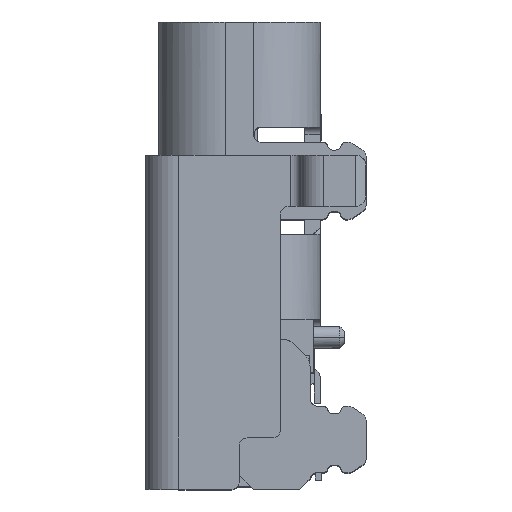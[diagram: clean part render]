
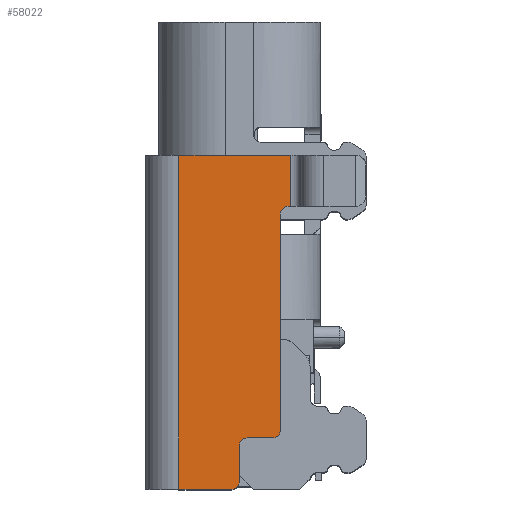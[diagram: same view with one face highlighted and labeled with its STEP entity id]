
A CAD part, top view. The second image highlights one B-rep face of the part: STEP entity #58022.
In plain terms, the highlighted planar face has unit normal (0, 0, 1) as drawn and (1, 0, 0) by its records, which use the part's own axes.
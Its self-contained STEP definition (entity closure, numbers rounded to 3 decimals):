
#38 = CARTESIAN_POINT ( 'NONE',  ( 4.74, -2.48, 5.52 ) ) ;
#578 = LINE ( 'NONE', #53759, #14608 ) ;
#1297 = DIRECTION ( 'NONE',  ( -1., 0., 0. ) ) ;
#1799 = CARTESIAN_POINT ( 'NONE',  ( 4.74, -1.83, 6.37 ) ) ;
#1990 = CARTESIAN_POINT ( 'NONE',  ( 4.74, -2.78, 1. ) ) ;
#2176 = DIRECTION ( 'NONE',  ( 0., -1., 0. ) ) ;
#2193 = ORIENTED_EDGE ( 'NONE', *, *, #56998, .T. ) ;
#2348 = VERTEX_POINT ( 'NONE', #5776 ) ;
#2700 = VERTEX_POINT ( 'NONE', #27356 ) ;
#3662 = DIRECTION ( 'NONE',  ( 0., 0., 1. ) ) ;
#3695 = ORIENTED_EDGE ( 'NONE', *, *, #7460, .T. ) ;
#4602 = VECTOR ( 'NONE', #42315, 1000. ) ;
#5342 = CIRCLE ( 'NONE', #34414, 0.15 ) ;
#5583 = ORIENTED_EDGE ( 'NONE', *, *, #20975, .T. ) ;
#5776 = CARTESIAN_POINT ( 'NONE',  ( 4.74, -2.63, 1.15 ) ) ;
#6571 = AXIS2_PLACEMENT_3D ( 'NONE', #7222, #1297, #49899 ) ;
#7057 = LINE ( 'NONE', #38562, #66312 ) ;
#7222 = CARTESIAN_POINT ( 'NONE',  ( 4.74, -2.78, 1.15 ) ) ;
#7460 = EDGE_CURVE ( 'NONE', #2700, #14980, #55551, .T. ) ;
#8125 = VECTOR ( 'NONE', #24597, 1000. ) ;
#8618 = EDGE_CURVE ( 'NONE', #46556, #62732, #62084, .T. ) ;
#8889 = EDGE_CURVE ( 'NONE', #64501, #63349, #7057, .T. ) ;
#12288 = EDGE_CURVE ( 'NONE', #62732, #64501, #5342, .T. ) ;
#13197 = DIRECTION ( 'NONE',  ( 0., 1., 0. ) ) ;
#13350 = EDGE_LOOP ( 'NONE', ( #26490, #31362, #40719, #3695, #31049, #15634, #5583, #16871, #50275, #18523, #32414, #2193 ) ) ;
#14608 = VECTOR ( 'NONE', #38684, 1000. ) ;
#14869 = DIRECTION ( 'NONE',  ( 0., 0., 1. ) ) ;
#14980 = VERTEX_POINT ( 'NONE', #40031 ) ;
#15634 = ORIENTED_EDGE ( 'NONE', *, *, #30601, .F. ) ;
#16458 = LINE ( 'NONE', #63772, #63963 ) ;
#16871 = ORIENTED_EDGE ( 'NONE', *, *, #8618, .T. ) ;
#18523 = ORIENTED_EDGE ( 'NONE', *, *, #8889, .T. ) ;
#19148 = DIRECTION ( 'NONE',  ( 0., -1., 0. ) ) ;
#19711 = CARTESIAN_POINT ( 'NONE',  ( 4.74, -1.98, 5.67 ) ) ;
#20975 = EDGE_CURVE ( 'NONE', #47099, #46556, #37598, .T. ) ;
#23301 = CARTESIAN_POINT ( 'NONE',  ( 4.74, -2.83, 1. ) ) ;
#23550 = DIRECTION ( 'NONE',  ( 0., 0., -1. ) ) ;
#24597 = DIRECTION ( 'NONE',  ( 0., 0., -1. ) ) ;
#24678 = CARTESIAN_POINT ( 'NONE',  ( 4.74, -0.65, 6.52 ) ) ;
#25100 = DIRECTION ( 'NONE',  ( 1., 0., 0. ) ) ;
#25399 = CARTESIAN_POINT ( 'NONE',  ( 4.74, -1.83, 5.67 ) ) ;
#26490 = ORIENTED_EDGE ( 'NONE', *, *, #68110, .T. ) ;
#26532 = EDGE_CURVE ( 'NONE', #63349, #53963, #42500, .T. ) ;
#27356 = CARTESIAN_POINT ( 'NONE',  ( 4.74, -2.83, 0. ) ) ;
#28569 = CARTESIAN_POINT ( 'NONE',  ( 4.74, -0.65, 0. ) ) ;
#28632 = AXIS2_PLACEMENT_3D ( 'NONE', #29997, #25100, #29320 ) ;
#28779 = CARTESIAN_POINT ( 'NONE',  ( 4.74, -2.63, 6.52 ) ) ;
#29320 = DIRECTION ( 'NONE',  ( 0., 0., 1. ) ) ;
#29997 = CARTESIAN_POINT ( 'NONE',  ( 4.74, -1.68, 6.37 ) ) ;
#30063 = CARTESIAN_POINT ( 'NONE',  ( 4.74, -1.98, 5.52 ) ) ;
#30601 = EDGE_CURVE ( 'NONE', #47099, #39003, #578, .T. ) ;
#31049 = ORIENTED_EDGE ( 'NONE', *, *, #32597, .F. ) ;
#31199 = EDGE_CURVE ( 'NONE', #55064, #2700, #68647, .T. ) ;
#31362 = ORIENTED_EDGE ( 'NONE', *, *, #38856, .T. ) ;
#32414 = ORIENTED_EDGE ( 'NONE', *, *, #26532, .T. ) ;
#32597 = EDGE_CURVE ( 'NONE', #39003, #14980, #16458, .T. ) ;
#33014 = LINE ( 'NONE', #28779, #51422 ) ;
#34414 = AXIS2_PLACEMENT_3D ( 'NONE', #19711, #45299, #3662 ) ;
#35766 = DIRECTION ( 'NONE',  ( 1., 0., 0. ) ) ;
#37598 = CIRCLE ( 'NONE', #28632, 0.15 ) ;
#37758 = CARTESIAN_POINT ( 'NONE',  ( 4.74, -2.83, 6.52 ) ) ;
#37761 = VECTOR ( 'NONE', #19148, 1000. ) ;
#38562 = CARTESIAN_POINT ( 'NONE',  ( 4.74, -0.65, 5.52 ) ) ;
#38684 = DIRECTION ( 'NONE',  ( 0., 1., 0. ) ) ;
#38856 = EDGE_CURVE ( 'NONE', #51677, #55064, #51335, .T. ) ;
#39003 = VERTEX_POINT ( 'NONE', #44938 ) ;
#40031 = CARTESIAN_POINT ( 'NONE',  ( 4.74, -0.65, 0. ) ) ;
#40719 = ORIENTED_EDGE ( 'NONE', *, *, #31199, .T. ) ;
#41388 = CARTESIAN_POINT ( 'NONE',  ( 4.74, -1.83, 6.52 ) ) ;
#41523 = CARTESIAN_POINT ( 'NONE',  ( 4.74, -0.65, 1. ) ) ;
#42023 = DIRECTION ( 'NONE',  ( 0., 0., -1. ) ) ;
#42315 = DIRECTION ( 'NONE',  ( 0., 0., -1. ) ) ;
#42342 = CIRCLE ( 'NONE', #6571, 0.15 ) ;
#42500 = CIRCLE ( 'NONE', #53701, 0.15 ) ;
#44938 = CARTESIAN_POINT ( 'NONE',  ( 4.74, -0.65, 6.52 ) ) ;
#45299 = DIRECTION ( 'NONE',  ( -1., 0., 0. ) ) ;
#46556 = VERTEX_POINT ( 'NONE', #1799 ) ;
#47099 = VERTEX_POINT ( 'NONE', #68118 ) ;
#47302 = CARTESIAN_POINT ( 'NONE',  ( 4.74, -2.48, 5.37 ) ) ;
#49209 = CARTESIAN_POINT ( 'NONE',  ( 4.74, -2.63, 5.37 ) ) ;
#49899 = DIRECTION ( 'NONE',  ( 0., 0., 1. ) ) ;
#50275 = ORIENTED_EDGE ( 'NONE', *, *, #12288, .T. ) ;
#51335 = LINE ( 'NONE', #41523, #37761 ) ;
#51422 = VECTOR ( 'NONE', #23550, 1000. ) ;
#51626 = DIRECTION ( 'NONE',  ( -1., 0., 0. ) ) ;
#51677 = VERTEX_POINT ( 'NONE', #1990 ) ;
#52302 = FACE_OUTER_BOUND ( 'NONE', #13350, .T. ) ;
#53701 = AXIS2_PLACEMENT_3D ( 'NONE', #47302, #35766, #63791 ) ;
#53759 = CARTESIAN_POINT ( 'NONE',  ( 4.74, -0.65, 6.52 ) ) ;
#53876 = VECTOR ( 'NONE', #13197, 1000. ) ;
#53963 = VERTEX_POINT ( 'NONE', #49209 ) ;
#55064 = VERTEX_POINT ( 'NONE', #23301 ) ;
#55551 = LINE ( 'NONE', #28569, #53876 ) ;
#56998 = EDGE_CURVE ( 'NONE', #53963, #2348, #33014, .T. ) ;
#58022 = ADVANCED_FACE ( 'NONE', ( #52302 ), #63201, .F. ) ;
#59328 = AXIS2_PLACEMENT_3D ( 'NONE', #24678, #51626, #14869 ) ;
#62084 = LINE ( 'NONE', #41388, #8125 ) ;
#62732 = VERTEX_POINT ( 'NONE', #25399 ) ;
#63201 = PLANE ( 'NONE',  #59328 ) ;
#63349 = VERTEX_POINT ( 'NONE', #38 ) ;
#63772 = CARTESIAN_POINT ( 'NONE',  ( 4.74, -0.65, 6.52 ) ) ;
#63791 = DIRECTION ( 'NONE',  ( 0., 0., 1. ) ) ;
#63963 = VECTOR ( 'NONE', #42023, 1000. ) ;
#64501 = VERTEX_POINT ( 'NONE', #30063 ) ;
#66312 = VECTOR ( 'NONE', #2176, 1000. ) ;
#68110 = EDGE_CURVE ( 'NONE', #2348, #51677, #42342, .T. ) ;
#68118 = CARTESIAN_POINT ( 'NONE',  ( 4.74, -1.68, 6.52 ) ) ;
#68647 = LINE ( 'NONE', #37758, #4602 ) ;
